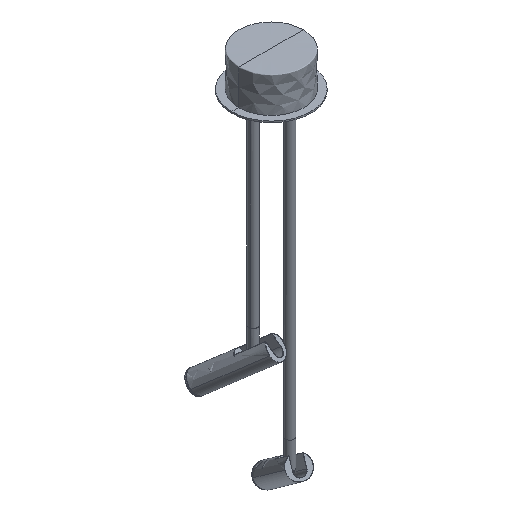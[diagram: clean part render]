
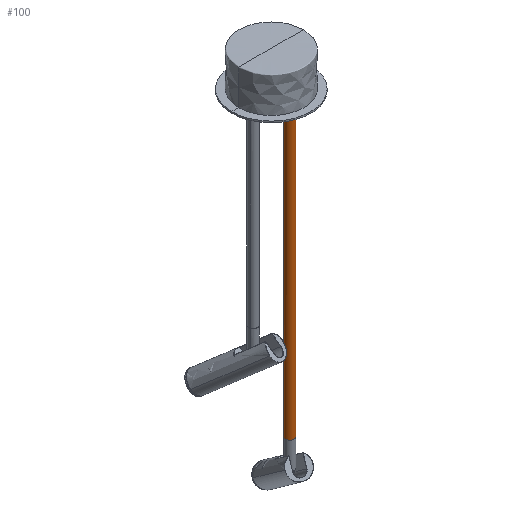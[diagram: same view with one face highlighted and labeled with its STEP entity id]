
A CAD part, isometric view. The second image highlights one B-rep face of the part: STEP entity #100.
In plain terms, the highlighted free-form (B-spline) face has degree [2, 1] with [5, 2] control points.
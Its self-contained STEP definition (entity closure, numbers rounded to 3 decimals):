
#17=B_SPLINE_SURFACE_WITH_KNOTS('',1,1,((#3899,#3900),(#3901,#3902)),
 .UNSPECIFIED.,.F.,.F.,.F.,(2,2),(2,2),(-6.12,6.12),(-12.12,0.12),
 .UNSPECIFIED.);
#18=B_SPLINE_SURFACE_WITH_KNOTS('',1,1,((#3903,#3904),(#3905,#3906)),
 .UNSPECIFIED.,.F.,.F.,.F.,(2,2),(2,2),(-12.12,0.12),(-6.12,6.12),
 .UNSPECIFIED.);
#100=ADVANCED_FACE('',(#232),#3420,.T.);
#232=FACE_OUTER_BOUND('',#364,.T.);
#364=EDGE_LOOP('',(#533,#534,#535,#536));
#533=ORIENTED_EDGE('',*,*,#2717,.F.);
#534=ORIENTED_EDGE('',*,*,#2722,.F.);
#535=ORIENTED_EDGE('',*,*,#2720,.F.);
#536=ORIENTED_EDGE('',*,*,#2721,.F.);
#1029=PCURVE('',#17,#1533);
#1032=PCURVE('',#18,#1536);
#1033=PCURVE('',#3419,#1537);
#1035=PCURVE('',#3419,#1539);
#1037=PCURVE('',#3420,#1541);
#1038=PCURVE('',#3420,#1542);
#1039=PCURVE('',#3420,#1543);
#1040=PCURVE('',#3420,#1544);
#1533=DEFINITIONAL_REPRESENTATION('',(#2964),#7702);
#1536=DEFINITIONAL_REPRESENTATION('',(#2970),#7702);
#1537=DEFINITIONAL_REPRESENTATION('',(#2043),#7702);
#1539=DEFINITIONAL_REPRESENTATION('',(#2046),#7702);
#1541=DEFINITIONAL_REPRESENTATION('',(#2048),#7702);
#1542=DEFINITIONAL_REPRESENTATION('',(#2049),#7702);
#1543=DEFINITIONAL_REPRESENTATION('',(#2050),#7702);
#1544=DEFINITIONAL_REPRESENTATION('',(#2051),#7702);
#2043=B_SPLINE_CURVE_WITH_KNOTS('',1,(#3973,#3974),.UNSPECIFIED.,.F.,.F.,
(2,2),(0.,243.736),.UNSPECIFIED.);
#2045=B_SPLINE_CURVE_WITH_KNOTS('',1,(#3977,#3978),.UNSPECIFIED.,.F.,.F.,
(2,2),(-243.736,0.),.UNSPECIFIED.);
#2046=B_SPLINE_CURVE_WITH_KNOTS('',1,(#3979,#3980),.UNSPECIFIED.,.F.,.F.,
(2,2),(-243.736,0.),.UNSPECIFIED.);
#2048=B_SPLINE_CURVE_WITH_KNOTS('',1,(#3983,#3984),.UNSPECIFIED.,.F.,.F.,
(2,2),(0.,18.85),.UNSPECIFIED.);
#2049=B_SPLINE_CURVE_WITH_KNOTS('',1,(#3985,#3986),.UNSPECIFIED.,.F.,.F.,
(2,2),(-243.736,0.),.UNSPECIFIED.);
#2050=B_SPLINE_CURVE_WITH_KNOTS('',1,(#3987,#3988),.UNSPECIFIED.,.F.,.F.,
(2,2),(-18.85,0.),.UNSPECIFIED.);
#2051=B_SPLINE_CURVE_WITH_KNOTS('',1,(#3989,#3990),.UNSPECIFIED.,.F.,.F.,
(2,2),(0.,243.736),.UNSPECIFIED.);
#2465=SURFACE_CURVE('',#2963,(#1029,#1037),.PCURVE_S1.);
#2468=SURFACE_CURVE('',#2969,(#1032,#1039),.PCURVE_S1.);
#2469=SURFACE_CURVE('',#2971,(#1033,#1040),.PCURVE_S1.);
#2470=SURFACE_CURVE('',#2045,(#1035,#1038),.PCURVE_S1.);
#2717=EDGE_CURVE('',#3271,#3273,#2465,.T.);
#2720=EDGE_CURVE('',#3274,#3272,#2468,.T.);
#2721=EDGE_CURVE('',#3273,#3274,#2469,.T.);
#2722=EDGE_CURVE('',#3272,#3271,#2470,.T.);
#2963=(
BOUNDED_CURVE()
B_SPLINE_CURVE(2,(#3931,#3932,#3933,#3934,#3935),.UNSPECIFIED.,.F.,.F.)
B_SPLINE_CURVE_WITH_KNOTS((3,2,3),(0.,9.425,18.85),
 .UNSPECIFIED.)
CURVE()
GEOMETRIC_REPRESENTATION_ITEM()
RATIONAL_B_SPLINE_CURVE((1.,0.707,1.,0.707,1.))
REPRESENTATION_ITEM('')
);
#2964=(
BOUNDED_CURVE()
B_SPLINE_CURVE(2,(#3936,#3937,#3938,#3939,#3940),.UNSPECIFIED.,.F.,.F.)
B_SPLINE_CURVE_WITH_KNOTS((3,2,3),(0.,9.425,18.85),
 .UNSPECIFIED.)
CURVE()
GEOMETRIC_REPRESENTATION_ITEM()
RATIONAL_B_SPLINE_CURVE((1.,0.707,1.,0.707,1.))
REPRESENTATION_ITEM('')
);
#2969=(
BOUNDED_CURVE()
B_SPLINE_CURVE(2,(#3961,#3962,#3963,#3964,#3965),.UNSPECIFIED.,.F.,.F.)
B_SPLINE_CURVE_WITH_KNOTS((3,2,3),(-18.85,-9.425,
0.),.UNSPECIFIED.)
CURVE()
GEOMETRIC_REPRESENTATION_ITEM()
RATIONAL_B_SPLINE_CURVE((1.,0.707,1.,0.707,1.))
REPRESENTATION_ITEM('')
);
#2970=(
BOUNDED_CURVE()
B_SPLINE_CURVE(2,(#3966,#3967,#3968,#3969,#3970),.UNSPECIFIED.,.F.,.F.)
B_SPLINE_CURVE_WITH_KNOTS((3,2,3),(-18.85,-9.425,
0.),.UNSPECIFIED.)
CURVE()
GEOMETRIC_REPRESENTATION_ITEM()
RATIONAL_B_SPLINE_CURVE((1.,0.707,1.,0.707,1.))
REPRESENTATION_ITEM('')
);
#2971=(
BOUNDED_CURVE()
B_SPLINE_CURVE(1,(#3971,#3972),.UNSPECIFIED.,.F.,.F.)
B_SPLINE_CURVE_WITH_KNOTS((2,2),(0.,243.736),.UNSPECIFIED.)
CURVE()
GEOMETRIC_REPRESENTATION_ITEM()
RATIONAL_B_SPLINE_CURVE((1.,1.))
REPRESENTATION_ITEM('')
);
#3271=VERTEX_POINT('',#3927);
#3272=VERTEX_POINT('',#3928);
#3273=VERTEX_POINT('',#3929);
#3274=VERTEX_POINT('',#3930);
#3419=(
BOUNDED_SURFACE()
B_SPLINE_SURFACE(2,1,((#3907,#3908),(#3909,#3910),(#3911,#3912),(#3913,
#3914),(#3915,#3916)),.UNSPECIFIED.,.F.,.F.,.F.)
B_SPLINE_SURFACE_WITH_KNOTS((3,2,3),(2,2),(-37.699,-28.274,
-18.85),(0.,243.736),.UNSPECIFIED.)
GEOMETRIC_REPRESENTATION_ITEM()
RATIONAL_B_SPLINE_SURFACE(((1.,1.),(0.707,0.707),
(1.,1.),(0.707,0.707),(1.,1.)))
REPRESENTATION_ITEM('')
SURFACE()
);
#3420=(
BOUNDED_SURFACE()
B_SPLINE_SURFACE(2,1,((#3917,#3918),(#3919,#3920),(#3921,#3922),(#3923,
#3924),(#3925,#3926)),.UNSPECIFIED.,.F.,.F.,.F.)
B_SPLINE_SURFACE_WITH_KNOTS((3,2,3),(2,2),(-18.85,-9.425,
0.),(0.,243.736),.UNSPECIFIED.)
GEOMETRIC_REPRESENTATION_ITEM()
RATIONAL_B_SPLINE_SURFACE(((1.,1.),(0.707,0.707),
(1.,1.),(0.707,0.707),(1.,1.)))
REPRESENTATION_ITEM('')
SURFACE()
);
#3899=CARTESIAN_POINT('',(1631.48,313.179,142.566));
#3900=CARTESIAN_POINT('',(1620.061,318.125,142.566));
#3901=CARTESIAN_POINT('',(1636.426,324.598,142.566));
#3902=CARTESIAN_POINT('',(1625.007,329.544,142.566));
#3903=CARTESIAN_POINT('',(1631.48,313.179,-323.121));
#3904=CARTESIAN_POINT('',(1636.426,324.598,-323.121));
#3905=CARTESIAN_POINT('',(1620.061,318.125,-323.121));
#3906=CARTESIAN_POINT('',(1625.007,329.544,-323.121));
#3907=CARTESIAN_POINT('',(1622.646,323.786,142.566));
#3908=CARTESIAN_POINT('',(1622.646,323.786,-323.121));
#3909=CARTESIAN_POINT('',(1625.07,329.383,142.566));
#3910=CARTESIAN_POINT('',(1625.07,329.383,-323.121));
#3911=CARTESIAN_POINT('',(1630.668,326.959,142.566));
#3912=CARTESIAN_POINT('',(1630.668,326.959,-323.121));
#3913=CARTESIAN_POINT('',(1636.265,324.534,142.566));
#3914=CARTESIAN_POINT('',(1636.265,324.534,-323.121));
#3915=CARTESIAN_POINT('',(1633.841,318.937,142.566));
#3916=CARTESIAN_POINT('',(1633.841,318.937,-323.121));
#3917=CARTESIAN_POINT('',(1633.841,318.937,142.566));
#3918=CARTESIAN_POINT('',(1633.841,318.937,-323.121));
#3919=CARTESIAN_POINT('',(1631.417,313.339,142.566));
#3920=CARTESIAN_POINT('',(1631.417,313.339,-323.121));
#3921=CARTESIAN_POINT('',(1625.819,315.764,142.566));
#3922=CARTESIAN_POINT('',(1625.819,315.764,-323.121));
#3923=CARTESIAN_POINT('',(1620.222,318.188,142.566));
#3924=CARTESIAN_POINT('',(1620.222,318.188,-323.121));
#3925=CARTESIAN_POINT('',(1622.646,323.786,142.566));
#3926=CARTESIAN_POINT('',(1622.646,323.786,-323.121));
#3927=CARTESIAN_POINT('',(1622.646,323.786,142.566));
#3928=CARTESIAN_POINT('',(1622.646,323.786,-323.121));
#3929=CARTESIAN_POINT('',(1633.841,318.937,142.566));
#3930=CARTESIAN_POINT('',(1633.841,318.937,-323.121));
#3931=CARTESIAN_POINT('',(1622.646,323.786,142.566));
#3932=CARTESIAN_POINT('',(1620.222,318.188,142.566));
#3933=CARTESIAN_POINT('',(1625.819,315.764,142.566));
#3934=CARTESIAN_POINT('',(1631.417,313.339,142.566));
#3935=CARTESIAN_POINT('',(1633.841,318.937,142.566));
#3936=CARTESIAN_POINT('',(0.,0.));
#3937=CARTESIAN_POINT('',(-6.,0.));
#3938=CARTESIAN_POINT('',(-6.,-6.));
#3939=CARTESIAN_POINT('',(-6.,-12.));
#3940=CARTESIAN_POINT('',(0.,-12.));
#3961=CARTESIAN_POINT('',(1633.841,318.937,-323.121));
#3962=CARTESIAN_POINT('',(1631.417,313.339,-323.121));
#3963=CARTESIAN_POINT('',(1625.819,315.764,-323.121));
#3964=CARTESIAN_POINT('',(1620.222,318.188,-323.121));
#3965=CARTESIAN_POINT('',(1622.646,323.786,-323.121));
#3966=CARTESIAN_POINT('',(-12.,0.));
#3967=CARTESIAN_POINT('',(-12.,-6.));
#3968=CARTESIAN_POINT('',(-6.,-6.));
#3969=CARTESIAN_POINT('',(0.,-6.));
#3970=CARTESIAN_POINT('',(0.,0.));
#3971=CARTESIAN_POINT('',(1633.841,318.937,142.566));
#3972=CARTESIAN_POINT('',(1633.841,318.937,-323.121));
#3973=CARTESIAN_POINT('',(-18.85,0.));
#3974=CARTESIAN_POINT('',(-18.85,243.736));
#3977=CARTESIAN_POINT('',(1622.646,323.786,-323.121));
#3978=CARTESIAN_POINT('',(1622.646,323.786,142.566));
#3979=CARTESIAN_POINT('',(-37.699,243.736));
#3980=CARTESIAN_POINT('',(-37.699,0.));
#3983=CARTESIAN_POINT('',(0.,0.));
#3984=CARTESIAN_POINT('',(-18.85,0.));
#3985=CARTESIAN_POINT('',(0.,243.736));
#3986=CARTESIAN_POINT('',(0.,0.));
#3987=CARTESIAN_POINT('',(-18.85,243.736));
#3988=CARTESIAN_POINT('',(0.,243.736));
#3989=CARTESIAN_POINT('',(-18.85,0.));
#3990=CARTESIAN_POINT('',(-18.85,243.736));
#7702=(
GEOMETRIC_REPRESENTATION_CONTEXT(2)
PARAMETRIC_REPRESENTATION_CONTEXT()
REPRESENTATION_CONTEXT('pspace','')
);
